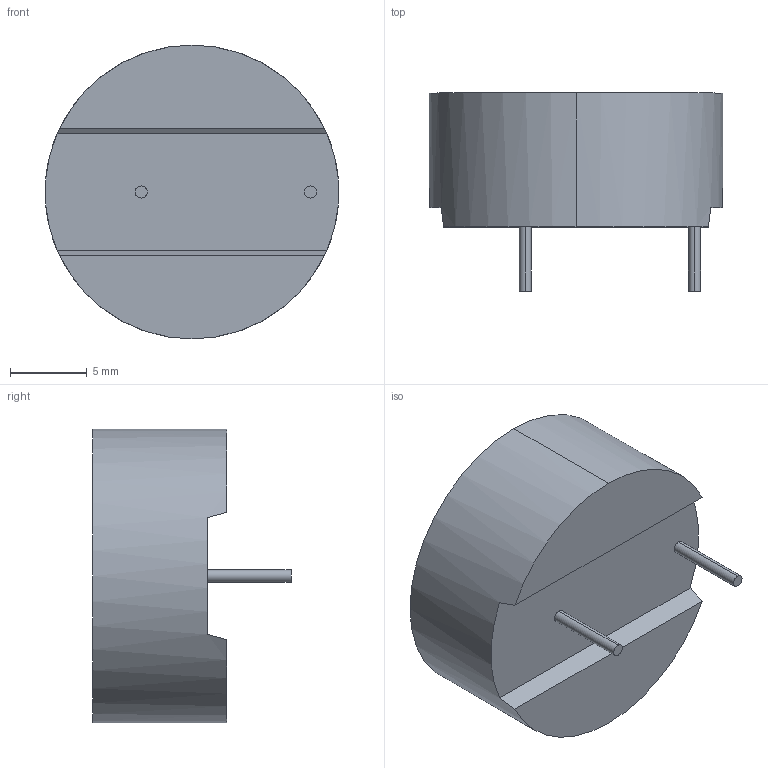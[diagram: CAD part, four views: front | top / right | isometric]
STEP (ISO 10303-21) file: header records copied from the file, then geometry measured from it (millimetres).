
FILE_DESCRIPTION (( 'STEP AP214' ), '1' );
FILE_NAME ('IHTH_IHTH0750IZ 68uH.step', '2014-06-30T13:57:34', ( '' ), ( '' ), 'SwSTEP 2.0', 'SolidWorks 2014', '' );
FILE_SCHEMA (( 'AUTOMOTIVE_DESIGN' ));
Length unit declared in the file: inch
Products named in the file (1): IHTH_IHTH0750IZ  68uH
Bounding box: 19.18 x 12.93 x 19.18 mm (x, y, z)
Volume: 2340.6 mm3; surface area: 1145.1 mm2
Topology: 1 solids, 1 shells, 39 faces, 90 edges, 60 vertices
Faces by surface type: plane 33, cylinder 6
Entity records: 1231 total; most frequent: CARTESIAN_POINT 202, DIRECTION 182, ORIENTED_EDGE 180, EDGE_CURVE 90, LINE 70, VECTOR 70, VERTEX_POINT 60, AXIS2_PLACEMENT_3D 56
